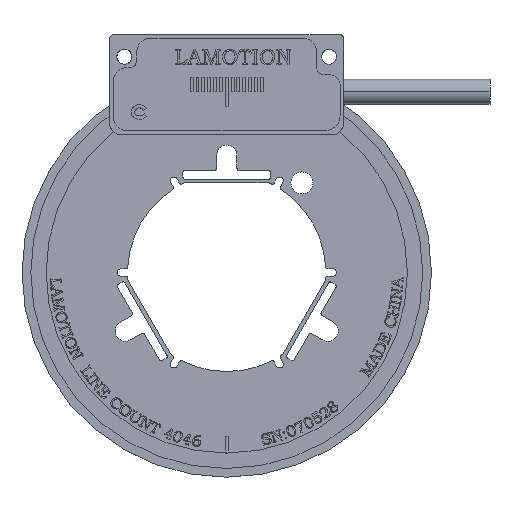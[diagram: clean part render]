
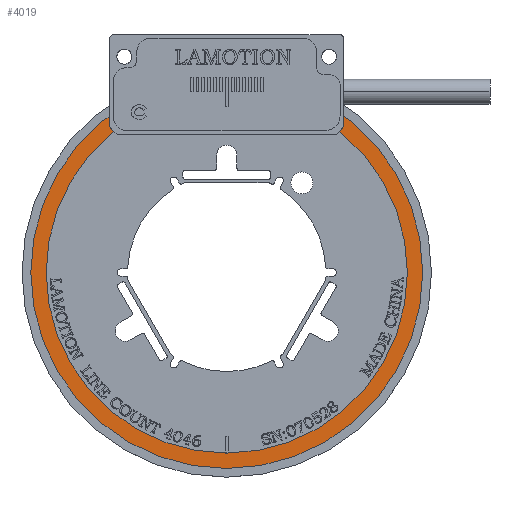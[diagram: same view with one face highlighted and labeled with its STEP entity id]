
A CAD part, top view. The second image highlights one B-rep face of the part: STEP entity #4019.
In plain terms, the highlighted planar face has unit normal (0, 0, 1).
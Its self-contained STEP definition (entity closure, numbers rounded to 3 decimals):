
#1172 = ORIENTED_EDGE ( 'NONE', *, *, #31672, .T. ) ;
#4019 = ADVANCED_FACE ( 'NONE', ( #34266, #12544 ), #21568, .T. ) ;
#4304 = VERTEX_POINT ( 'NONE', #23356 ) ;
#6516 = VERTEX_POINT ( 'NONE', #32444 ) ;
#6529 = CARTESIAN_POINT ( 'NONE',  ( -26.8, 0., -0.001 ) ) ;
#6736 = VERTEX_POINT ( 'NONE', #30576 ) ;
#6838 = CARTESIAN_POINT ( 'NONE',  ( 0., 0., -0.001 ) ) ;
#7437 = DIRECTION ( 'NONE',  ( 0., 0., 1. ) ) ;
#8630 = DIRECTION ( 'NONE',  ( 0., 0., 1. ) ) ;
#9518 = DIRECTION ( 'NONE',  ( 1., 0., 0. ) ) ;
#10374 = CARTESIAN_POINT ( 'NONE',  ( 0., 0., -0.001 ) ) ;
#10964 = DIRECTION ( 'NONE',  ( 0., 0., 1. ) ) ;
#11544 = AXIS2_PLACEMENT_3D ( 'NONE', #6838, #7437, #43645 ) ;
#11653 = DIRECTION ( 'NONE',  ( 0., 0., 1. ) ) ;
#12544 = FACE_OUTER_BOUND ( 'NONE', #34536, .T. ) ;
#15789 = DIRECTION ( 'NONE',  ( 1., 0., 0. ) ) ;
#16037 = EDGE_CURVE ( 'NONE', #6516, #6736, #46812, .T. ) ;
#17400 = AXIS2_PLACEMENT_3D ( 'NONE', #56354, #47612, #29854 ) ;
#18078 = CIRCLE ( 'NONE', #42147, 26.8 ) ;
#20387 = DIRECTION ( 'NONE',  ( 1., 0., 0. ) ) ;
#21568 = PLANE ( 'NONE',  #45296 ) ;
#23356 = CARTESIAN_POINT ( 'NONE',  ( 26.8, 0., -0.001 ) ) ;
#25011 = CIRCLE ( 'NONE', #11544, 26.8 ) ;
#26631 = VERTEX_POINT ( 'NONE', #6529 ) ;
#26740 = EDGE_CURVE ( 'NONE', #6736, #6516, #35687, .T. ) ;
#29854 = DIRECTION ( 'NONE',  ( 1., 0., 0. ) ) ;
#30576 = CARTESIAN_POINT ( 'NONE',  ( 24.7, 0., -0.001 ) ) ;
#31672 = EDGE_CURVE ( 'NONE', #4304, #26631, #18078, .T. ) ;
#32444 = CARTESIAN_POINT ( 'NONE',  ( -24.7, 0., -0.001 ) ) ;
#34266 = FACE_BOUND ( 'NONE', #49820, .T. ) ;
#34536 = EDGE_LOOP ( 'NONE', ( #1172, #50717 ) ) ;
#35687 = CIRCLE ( 'NONE', #17400, 24.7 ) ;
#42147 = AXIS2_PLACEMENT_3D ( 'NONE', #50221, #8630, #9518 ) ;
#43645 = DIRECTION ( 'NONE',  ( 1., 0., 0. ) ) ;
#45296 = AXIS2_PLACEMENT_3D ( 'NONE', #52595, #11653, #20387 ) ;
#45777 = ORIENTED_EDGE ( 'NONE', *, *, #26740, .F. ) ;
#46812 = CIRCLE ( 'NONE', #54595, 24.7 ) ;
#47612 = DIRECTION ( 'NONE',  ( 0., 0., 1. ) ) ;
#49820 = EDGE_LOOP ( 'NONE', ( #45777, #59200 ) ) ;
#50221 = CARTESIAN_POINT ( 'NONE',  ( 0., 0., -0.001 ) ) ;
#50717 = ORIENTED_EDGE ( 'NONE', *, *, #55167, .T. ) ;
#52595 = CARTESIAN_POINT ( 'NONE',  ( 0., 0., -0.001 ) ) ;
#54595 = AXIS2_PLACEMENT_3D ( 'NONE', #10374, #10964, #15789 ) ;
#55167 = EDGE_CURVE ( 'NONE', #26631, #4304, #25011, .T. ) ;
#56354 = CARTESIAN_POINT ( 'NONE',  ( 0., 0., -0.001 ) ) ;
#59200 = ORIENTED_EDGE ( 'NONE', *, *, #16037, .F. ) ;
